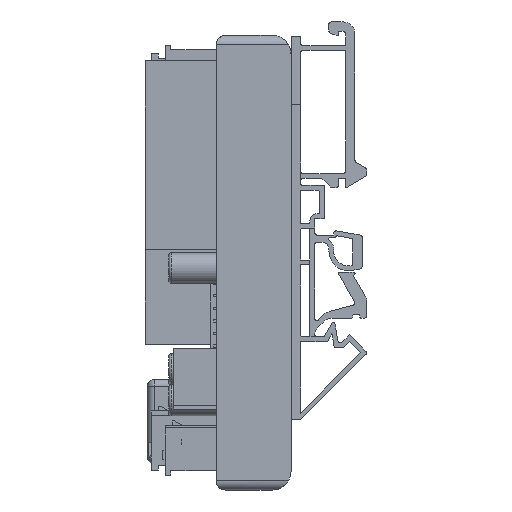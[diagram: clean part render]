
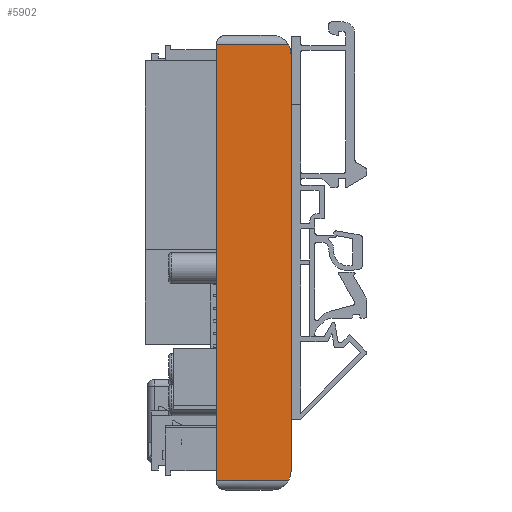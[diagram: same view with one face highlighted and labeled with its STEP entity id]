
A CAD part, left-side view. The second image highlights one B-rep face of the part: STEP entity #5902.
In plain terms, the highlighted planar face has unit normal (-1, 0, 0).
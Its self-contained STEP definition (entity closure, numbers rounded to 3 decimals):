
#54 = VECTOR ( 'NONE', #19852, 1000. ) ;
#1365 = VERTEX_POINT ( 'NONE', #33779 ) ;
#1465 = ORIENTED_EDGE ( 'NONE', *, *, #39416, .T. ) ;
#3873 = VECTOR ( 'NONE', #36522, 1000. ) ;
#4276 = AXIS2_PLACEMENT_3D ( 'NONE', #40558, #37565, #40822 ) ;
#5741 = CIRCLE ( 'NONE', #25111, 4. ) ;
#5902 = ADVANCED_FACE ( 'NONE', ( #8133 ), #21054, .F. ) ;
#6378 = VERTEX_POINT ( 'NONE', #15040 ) ;
#6605 = CARTESIAN_POINT ( 'NONE',  ( -57.8, 15.8, 46. ) ) ;
#6756 = CARTESIAN_POINT ( 'NONE',  ( -57.8, 0., -44. ) ) ;
#8133 = FACE_OUTER_BOUND ( 'NONE', #35171, .T. ) ;
#9303 = CARTESIAN_POINT ( 'NONE',  ( -57.8, 4., -44. ) ) ;
#9386 = VECTOR ( 'NONE', #9422, 1000. ) ;
#9422 = DIRECTION ( 'NONE',  ( 0., -1., 0. ) ) ;
#9496 = VERTEX_POINT ( 'NONE', #39296 ) ;
#9868 = CARTESIAN_POINT ( 'NONE',  ( -57.8, 0.536, -46. ) ) ;
#10052 = DIRECTION ( 'NONE',  ( 0., 0., 1. ) ) ;
#12804 = DIRECTION ( 'NONE',  ( 0., 0., -1. ) ) ;
#13588 = CARTESIAN_POINT ( 'NONE',  ( -57.8, 0., 48. ) ) ;
#15040 = CARTESIAN_POINT ( 'NONE',  ( -57.8, 0., 44. ) ) ;
#15376 = DIRECTION ( 'NONE',  ( -1., 0., 0. ) ) ;
#18157 = LINE ( 'NONE', #36261, #3873 ) ;
#18664 = CARTESIAN_POINT ( 'NONE',  ( -57.8, 15.8, -46. ) ) ;
#18691 = DIRECTION ( 'NONE',  ( 0., 0., -1. ) ) ;
#19852 = DIRECTION ( 'NONE',  ( 0., 1., 0. ) ) ;
#20768 = AXIS2_PLACEMENT_3D ( 'NONE', #32200, #22970, #12804 ) ;
#20864 = EDGE_CURVE ( 'NONE', #38774, #1365, #18157, .T. ) ;
#21054 = PLANE ( 'NONE',  #4276 ) ;
#21630 = CIRCLE ( 'NONE', #20768, 4. ) ;
#21890 = LINE ( 'NONE', #6605, #54 ) ;
#22970 = DIRECTION ( 'NONE',  ( -1., 0., 0. ) ) ;
#23359 = EDGE_CURVE ( 'NONE', #38774, #36313, #40256, .T. ) ;
#24393 = ORIENTED_EDGE ( 'NONE', *, *, #31943, .T. ) ;
#25111 = AXIS2_PLACEMENT_3D ( 'NONE', #9303, #15376, #18691 ) ;
#26231 = ORIENTED_EDGE ( 'NONE', *, *, #37227, .T. ) ;
#26442 = VECTOR ( 'NONE', #10052, 1000. ) ;
#31582 = ORIENTED_EDGE ( 'NONE', *, *, #20864, .F. ) ;
#31905 = EDGE_CURVE ( 'NONE', #41293, #6378, #41627, .T. ) ;
#31943 = EDGE_CURVE ( 'NONE', #9496, #1365, #21890, .T. ) ;
#32200 = CARTESIAN_POINT ( 'NONE',  ( -57.8, 4., 44. ) ) ;
#33056 = ORIENTED_EDGE ( 'NONE', *, *, #23359, .T. ) ;
#33779 = CARTESIAN_POINT ( 'NONE',  ( -57.8, 15.8, 46. ) ) ;
#35171 = EDGE_LOOP ( 'NONE', ( #31582, #33056, #26231, #39631, #1465, #24393 ) ) ;
#36261 = CARTESIAN_POINT ( 'NONE',  ( -57.8, 15.8, 48. ) ) ;
#36313 = VERTEX_POINT ( 'NONE', #9868 ) ;
#36522 = DIRECTION ( 'NONE',  ( 0., 0., 1. ) ) ;
#37227 = EDGE_CURVE ( 'NONE', #36313, #41293, #5741, .T. ) ;
#37565 = DIRECTION ( 'NONE',  ( 1., 0., 0. ) ) ;
#38031 = CARTESIAN_POINT ( 'NONE',  ( -57.8, 15.8, -46. ) ) ;
#38774 = VERTEX_POINT ( 'NONE', #38031 ) ;
#39296 = CARTESIAN_POINT ( 'NONE',  ( -57.8, 0.536, 46. ) ) ;
#39416 = EDGE_CURVE ( 'NONE', #6378, #9496, #21630, .T. ) ;
#39631 = ORIENTED_EDGE ( 'NONE', *, *, #31905, .T. ) ;
#40256 = LINE ( 'NONE', #18664, #9386 ) ;
#40558 = CARTESIAN_POINT ( 'NONE',  ( -57.8, 15.8, 48. ) ) ;
#40822 = DIRECTION ( 'NONE',  ( 0., 0., -1. ) ) ;
#41293 = VERTEX_POINT ( 'NONE', #6756 ) ;
#41627 = LINE ( 'NONE', #13588, #26442 ) ;
